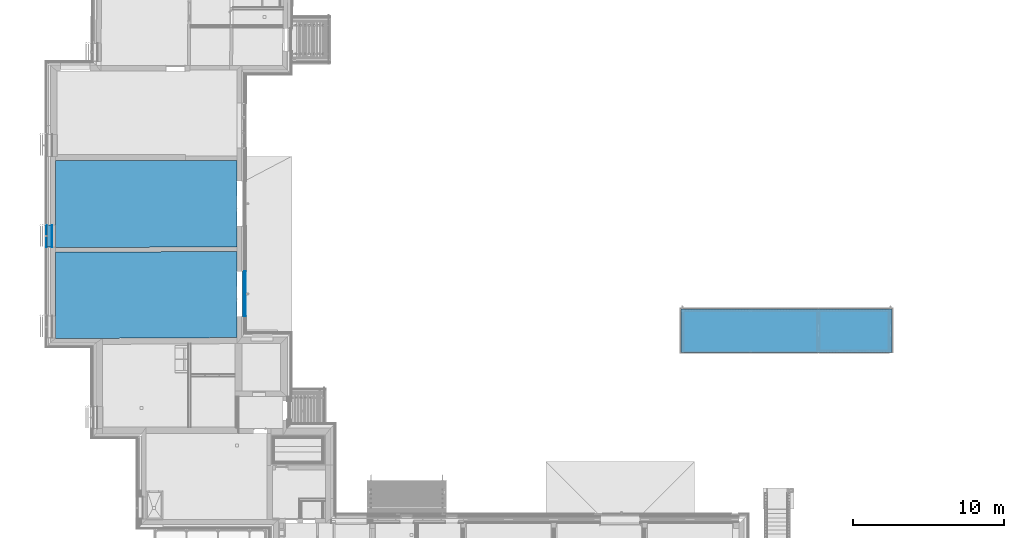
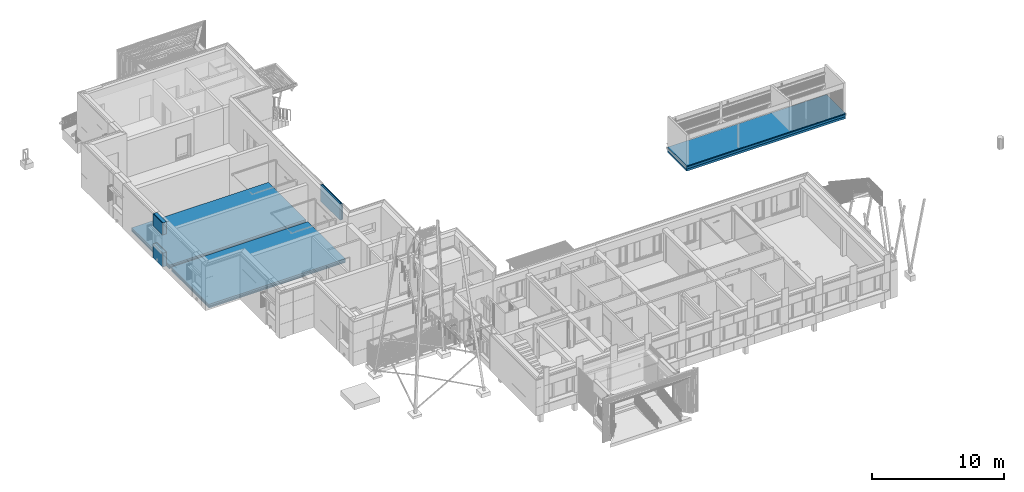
# One storey, part 50 of 418: 18 building element parts, 5 openings, 5 elements without a shape of their own.
"""IFC2X3 building model written with IfcOpenShell, lengths in millimetres."""

from ifc_helpers import new_model, entity, si_unit, converted_unit, derived_unit, money_unit, direction, frame, origin_with_axes, origin_2d_with_axis, place, context, subcontext, project, spatial, polyline, rectangle, outline, extrude, material, type_object, element, aggregate, save


model = new_model("IFC2X3")

# Units and contexts
model_context = context("Model", 3, precision=0.01, world=origin_with_axes(), true_north=direction((0.0, 1.0)))
body_context = subcontext(model_context, "Body", "Model", "MODEL_VIEW")
ifc_project = project(units=[si_unit("LENGTHUNIT", "METRE", prefix="MILLI"), si_unit("AREAUNIT", "SQUARE_METRE"), si_unit("VOLUMEUNIT", "CUBIC_METRE"), converted_unit("PLANEANGLEUNIT", "DEGREE", entity("IfcPlaneAngleMeasure", 0.0174532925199), si_unit("PLANEANGLEUNIT", "RADIAN"), dimensions=[0, 0, 0, 0, 0, 0, 0]), si_unit("SOLIDANGLEUNIT", "STERADIAN"), money_unit("EUR"), converted_unit("TIMEUNIT", "Year", entity("IfcTimeMeasure", 31556926.0), si_unit("TIMEUNIT", "SECOND"), dimensions=[0, 0, 1, 0, 0, 0, 0]), si_unit("MASSUNIT", "GRAM", prefix="KILO"), si_unit("THERMODYNAMICTEMPERATUREUNIT", "DEGREE_CELSIUS"), si_unit("LUMINOUSINTENSITYUNIT", "LUMEN"), si_unit("ENERGYUNIT", "JOULE", prefix="MEGA"), derived_unit("THERMALCONDUCTANCEUNIT", [(si_unit("POWERUNIT", "WATT"), 1), (si_unit("LENGTHUNIT", "METRE"), -1), (si_unit("THERMODYNAMICTEMPERATUREUNIT", "KELVIN"), -1)]), derived_unit("SPECIFICHEATCAPACITYUNIT", [(si_unit("ENERGYUNIT", "JOULE"), 1), (si_unit("MASSUNIT", "GRAM", prefix="KILO"), -1), (si_unit("THERMODYNAMICTEMPERATUREUNIT", "KELVIN"), -1)]), derived_unit("MASSDENSITYUNIT", [(si_unit("MASSUNIT", "GRAM", prefix="KILO"), 1), (si_unit("VOLUMEUNIT", "CUBIC_METRE"), -1)])], contexts=[model_context])

# Site, building, storey
site_placement = place(None, origin_with_axes())
site = spatial("IfcSite", under=ifc_project, at=site_placement, Name="Paldiski mnt 245/1, Tallinn, Harjumaa", CompositionType="COMPLEX")
building_placement = place(site_placement, origin_with_axes())
building = spatial("IfcBuilding", under=site, at=building_placement, Name="RKAS Hoone üldnimetus (kasutust iseloomustav) -> IFC Project Manager -> SOLIBRI", CompositionType="ELEMENT")
storey_placement = place(building_placement, origin_with_axes())
storey = spatial("IfcBuildingStorey", under=building, at=storey_placement, Name="Esimene korrus", CompositionType="ELEMENT", Elevation=0.0)

# Wall, openings, building element parts
wall_type_1 = type_object("IfcWallType", Name="VS-05D_uued_kihid 370", PredefinedType="NOTDEFINED")
wall_1_placement = place(storey_placement, frame((-62610.0, 19579.8288003, 0.0), z_axis=(0.0, 0.0, 1.0), x_axis=(0.0, -1.0, 0.0)))
wall_1 = element("IfcWall", 1, at=wall_1_placement, inside=storey, type_object=wall_type_1, Name="VS-05")
opening_1_placement = place(wall_1_placement, frame((725.0, 0.0, 1280.0), z_axis=(0.0, 0.0, 1.0), x_axis=(1.0, 0.0, 0.0)))
element("IfcOpeningElement", 2, at=opening_1_placement, cuts=wall_1, Name="A-06", context=body_context, shape_type="SweptSolid", body=[
    extrude(rectangle(XDim=1450.0, YDim=1700.0, at=origin_2d_with_axis()), frame((0.0, -220.0, 850.0), z_axis=(0.0, 1.0, 0.0), x_axis=(-1.0, 0.0, 0.0)), (0.0, 0.0, 1.0), 590.0),
    extrude(rectangle(XDim=1450.0, YDim=1700.0, at=origin_2d_with_axis()), frame((0.0, -220.0, 850.0), z_axis=(0.0, -1.0, 0.0), x_axis=(-1.0, 0.0, 0.0)), (0.0, 0.0, 1.0), 520.0),
    extrude(rectangle(XDim=1450.0, YDim=1700.0, at=origin_2d_with_axis()), frame((0.0, 0.0, 850.0), z_axis=(0.0, 1.0, 0.0), x_axis=(-1.0, 0.0, 0.0)), (0.0, 0.0, 1.0), 520.0),
    extrude(rectangle(XDim=1450.0, YDim=1708.0, at=origin_2d_with_axis()), frame((0.0, -370.0, 846.0), z_axis=(0.0, -1.0, 0.0), x_axis=(-1.0, 0.0, 0.0)), (0.0, 0.0, 1.0), 520.0),
])
opening_2_placement = place(wall_1_placement, frame((725.0, 0.0, 0.0), z_axis=(0.0, 0.0, 1.0), x_axis=(1.0, 0.0, 0.0)))
element("IfcOpeningElement", 3, at=opening_2_placement, cuts=wall_1, Name="Cembrit fassaadiplaadi vuuk", context=body_context, shape_type="SweptSolid", body=[
    extrude(outline(polyline([(-3.99999999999, 0.0), (4.00000000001, 0.0), (4.00000000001, 4090.0), (-3.99999999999, 4090.0), (-3.99999999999, 0.0)])), frame((0.0, -362.0, 0.0), z_axis=(0.0, 1.0, 0.0), x_axis=(-1.0, 0.0, 0.0)), (0.0, 0.0, -1.0), 378.0),
])
ifc_material_1 = material(Name="Cembrit_C060")
building_element_part_1_placement = place(wall_1_placement, origin_with_axes())
building_element_part_1 = element("IfcBuildingElementPart", 4, at=building_element_part_1_placement, material=ifc_material_1, Name="Cembrit_C060", context=body_context, shape_type="SweptSolid", body=[
    extrude(outline(polyline([(0.0, -370.0), (1450.0, -370.0), (1450.0, -362.0), (0.0, -362.0), (0.0, -370.0)])), origin_with_axes(), (0.0, 0.0, 1.0), 4090.0),
])
ifc_material_2 = material(Name="VKR-06_Õhkvahe")
building_element_part_2_placement = place(wall_1_placement, origin_with_axes())
building_element_part_2 = element("IfcBuildingElementPart", 5, at=building_element_part_2_placement, material=ifc_material_2, Name="VKR-06_Õhkvahe", context=body_context, shape_type="SweptSolid", body=[
    extrude(outline(polyline([(0.0, -362.0), (1450.0, -362.0), (1450.0, -320.0), (0.0, -320.0), (0.0, -362.0)])), origin_with_axes(), (0.0, 0.0, 1.0), 4090.0),
])
ifc_material_3 = material(Name="Kingspan Kooltherm")
building_element_part_3_placement = place(wall_1_placement, origin_with_axes())
building_element_part_3 = element("IfcBuildingElementPart", 6, at=building_element_part_3_placement, material=ifc_material_3, Name="Kingspan Kooltherm", context=body_context, shape_type="SweptSolid", body=[
    extrude(outline(polyline([(0.0, -320.0), (1450.0, -320.0), (1450.0, -20.0), (0.0, -20.0), (0.0, -320.0)])), origin_with_axes(), (0.0, 0.0, 1.0), 4090.0),
])
ifc_material_4 = material(Name="Tasanduskrohv")
building_element_part_4_placement = place(wall_1_placement, origin_with_axes())
building_element_part_4 = element("IfcBuildingElementPart", 7, at=building_element_part_4_placement, material=ifc_material_4, Name="Tasanduskrohv", context=body_context, shape_type="SweptSolid", body=[
    extrude(outline(polyline([(0.0, -20.0), (1450.0, -20.0), (1450.0, 0.0), (0.0, 0.0), (0.0, -20.0)])), origin_with_axes(), (0.0, 0.0, 1.0), 4090.0),
])
aggregate(wall_1, [building_element_part_1, building_element_part_2, building_element_part_3, building_element_part_4])

# Slab, building element parts
slab_type_1 = type_object("IfcSlabType", Name="AP-01 350", PredefinedType="NOTDEFINED")
slab_1_placement = place(storey_placement, frame((-62390.0, 18096.4054606, 0.0), z_axis=(0.0, 0.0, 1.0), x_axis=(1.0, 0.0, 0.0)))
slab_1 = element("IfcSlab", 8, at=slab_1_placement, inside=storey, type_object=slab_type_1, Name="AP-01", PredefinedType="NOTDEFINED")
ifc_material_5 = material(Name="EPS 200")
building_element_part_5_placement = place(slab_1_placement, origin_with_axes())
building_element_part_5 = element("IfcBuildingElementPart", 9, at=building_element_part_5_placement, material=ifc_material_5, Name="EPS 200", context=body_context, shape_type="SweptSolid", body=[
    extrude(outline(polyline([(0.0, 0.0), (11999.9999501, 43.4232029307), (12000.0, 5743.42326376), (1.42108547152e-10, 5743.42326376), (0.0, 0.0)])), frame((0.0, 0.0, -350.0), z_axis=(0.0, 0.0, 1.0), x_axis=(1.0, 0.0, 0.0)), (0.0, 0.0, 1.0), 100.0),
])
building_element_part_6_placement = place(slab_1_placement, origin_with_axes())
building_element_part_6 = element("IfcBuildingElementPart", 10, at=building_element_part_6_placement, material=ifc_material_5, Name="EPS 200", context=body_context, shape_type="SweptSolid", body=[
    extrude(outline(polyline([(0.0, 0.0), (11999.9999501, 43.4232029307), (12000.0, 5743.42326376), (1.42108547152e-10, 5743.42326376), (0.0, 0.0)])), frame((0.0, 0.0, -250.0), z_axis=(0.0, 0.0, 1.0), x_axis=(1.0, 0.0, 0.0)), (0.0, 0.0, 1.0), 100.0),
])
ifc_material_6 = material(Name="Kiudbetoon")
building_element_part_7_placement = place(slab_1_placement, origin_with_axes())
building_element_part_7 = element("IfcBuildingElementPart", 11, at=building_element_part_7_placement, material=ifc_material_6, Name="Kiudbetoon", context=body_context, shape_type="SweptSolid", body=[
    extrude(outline(polyline([(0.0, 0.0), (11999.9999501, 43.4232029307), (12000.0, 5743.42326376), (1.42108547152e-10, 5743.42326376), (0.0, 0.0)])), frame((0.0, 0.0, -150.0), z_axis=(0.0, 0.0, 1.0), x_axis=(1.0, 0.0, 0.0)), (0.0, 0.0, 1.0), 150.0),
])
aggregate(slab_1, [building_element_part_5, building_element_part_6, building_element_part_7])

slab_2_placement = place(storey_placement, frame((-62390.0, 12099.8287244, 0.0), z_axis=(0.0, 0.0, 1.0), x_axis=(1.0, 0.0, 0.0)))
slab_2 = element("IfcSlab", 12, at=slab_2_placement, inside=storey, type_object=slab_type_1, Name="AP-01", PredefinedType="NOTDEFINED")
building_element_part_8_placement = place(slab_2_placement, origin_with_axes())
building_element_part_8 = element("IfcBuildingElementPart", 13, at=building_element_part_8_placement, material=ifc_material_5, Name="EPS 200", context=body_context, shape_type="SweptSolid", body=[
    extrude(outline(polyline([(0.0, 0.0), (3000.0, 0.0), (12000.0, 49.9999999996), (11999.9999792, 5739.9980529), (1.27897692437e-10, 5696.5747721), (0.0, 0.0)])), frame((0.0, 0.0, -350.0), z_axis=(0.0, 0.0, 1.0), x_axis=(1.0, 0.0, 0.0)), (0.0, 0.0, 1.0), 100.0),
])
building_element_part_9_placement = place(slab_2_placement, origin_with_axes())
building_element_part_9 = element("IfcBuildingElementPart", 14, at=building_element_part_9_placement, material=ifc_material_5, Name="EPS 200", context=body_context, shape_type="SweptSolid", body=[
    extrude(outline(polyline([(0.0, 0.0), (3000.0, 0.0), (12000.0, 49.9999999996), (11999.9999792, 5739.9980529), (1.27897692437e-10, 5696.5747721), (0.0, 0.0)])), frame((0.0, 0.0, -250.0), z_axis=(0.0, 0.0, 1.0), x_axis=(1.0, 0.0, 0.0)), (0.0, 0.0, 1.0), 100.0),
])
building_element_part_10_placement = place(slab_2_placement, origin_with_axes())
building_element_part_10 = element("IfcBuildingElementPart", 15, at=building_element_part_10_placement, material=ifc_material_6, Name="Kiudbetoon", context=body_context, shape_type="SweptSolid", body=[
    extrude(outline(polyline([(0.0, 0.0), (3000.0, 0.0), (12000.0, 49.9999999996), (11999.9999792, 5739.9980529), (1.27897692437e-10, 5696.5747721), (0.0, 0.0)])), frame((0.0, 0.0, -150.0), z_axis=(0.0, 0.0, 1.0), x_axis=(1.0, 0.0, 0.0)), (0.0, 0.0, 1.0), 150.0),
])
aggregate(slab_2, [building_element_part_8, building_element_part_9, building_element_part_10])

slab_type_2 = type_object("IfcSlabType", Name="AP-04_prugimaja_betoonkivi 490", PredefinedType="NOTDEFINED")
slab_3_placement = place(storey_placement, frame((-21069.2717928, 11149.7949563, -1060.0), z_axis=(0.0, 0.0, 1.0), x_axis=(1.0, 0.0, 0.0)))
slab_3 = element("IfcSlab", 16, at=slab_3_placement, inside=storey, type_object=slab_type_2, Name="Alusporand", PredefinedType="NOTDEFINED")
ifc_material_7 = material(Name="VKK-02_Liiv")
building_element_part_11_placement = place(slab_3_placement, origin_with_axes())
building_element_part_11 = element("IfcBuildingElementPart", 17, at=building_element_part_11_placement, material=ifc_material_7, Name="VKK-02_Liiv", context=body_context, shape_type="SweptSolid", body=[
    extrude(outline(polyline([(0.0, 0.0), (13939.9999915, -3.10862446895e-10), (13939.9999915, 2890.00000143), (0.0, 2890.00000143), (0.0, 0.0)])), frame((0.0, 0.0, -490.0), z_axis=(0.0, 0.0, 1.0), x_axis=(1.0, 0.0, 0.0)), (0.0, 0.0, 1.0), 200.0),
])
ifc_material_8 = material(Name="VKK-03_Killustik")
building_element_part_12_placement = place(slab_3_placement, origin_with_axes())
building_element_part_12 = element("IfcBuildingElementPart", 18, at=building_element_part_12_placement, material=ifc_material_8, Name="VKK-03_Killustik", context=body_context, shape_type="SweptSolid", body=[
    extrude(outline(polyline([(0.0, 0.0), (13939.9999915, -3.10862446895e-10), (13939.9999915, 2890.00000143), (0.0, 2890.00000143), (0.0, 0.0)])), frame((0.0, 0.0, -290.0), z_axis=(0.0, 0.0, 1.0), x_axis=(1.0, 0.0, 0.0)), (0.0, 0.0, 1.0), 200.0),
])
building_element_part_13_placement = place(slab_3_placement, origin_with_axes())
building_element_part_13 = element("IfcBuildingElementPart", 19, at=building_element_part_13_placement, material=ifc_material_7, Name="VKK-02_Liiv", context=body_context, shape_type="SweptSolid", body=[
    extrude(outline(polyline([(0.0, 0.0), (13939.9999915, -3.10862446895e-10), (13939.9999915, 2890.00000143), (0.0, 2890.00000143), (0.0, 0.0)])), frame((0.0, 0.0, -90.0), z_axis=(0.0, 0.0, 1.0), x_axis=(1.0, 0.0, 0.0)), (0.0, 0.0, 1.0), 30.0),
])
ifc_material_9 = material(Name="VKR-03_Betoon Plokk - Krunt")
building_element_part_14_placement = place(slab_3_placement, origin_with_axes())
building_element_part_14 = element("IfcBuildingElementPart", 20, at=building_element_part_14_placement, material=ifc_material_9, Name="VKR-03_Betoon Plokk - Krunt", context=body_context, shape_type="SweptSolid", body=[
    extrude(outline(polyline([(0.0, 0.0), (13939.9999915, -3.10862446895e-10), (13939.9999915, 2890.00000143), (0.0, 2890.00000143), (0.0, 0.0)])), frame((0.0, 0.0, -60.0), z_axis=(0.0, 0.0, 1.0), x_axis=(1.0, 0.0, 0.0)), (0.0, 0.0, 1.0), 60.0),
])
aggregate(slab_3, [building_element_part_11, building_element_part_12, building_element_part_13, building_element_part_14])

# Wall, openings, building element parts
wall_type_2 = type_object("IfcWallType", Name="VS-03.1_uued_kihid 250", PredefinedType="NOTDEFINED")
wall_2_placement = place(storey_placement, frame((-50070.0, 16529.8267602, 2600.0), z_axis=(0.0, 0.0, 1.0), x_axis=(0.0, -1.0, 0.0)))
wall_2 = element("IfcWall", 21, at=wall_2_placement, inside=storey, type_object=wall_type_2, Name="VS-03.1")
opening_3_placement = place(wall_2_placement, frame((994.000187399, 0.0, -40.0), z_axis=(0.0, 0.0, 1.0), x_axis=(1.0, 0.0, 0.0)))
element("IfcOpeningElement", 22, at=opening_3_placement, cuts=wall_2, Name="Cembrit fassaadiplaadi vuuk", context=body_context, shape_type="SweptSolid", body=[
    extrude(outline(polyline([(-4.0, 0.0), (4.0, 0.0), (4.0, 1530.0), (-4.0, 1530.0), (-4.0, 0.0)])), frame((0.0, 242.0, 0.0), z_axis=(0.0, -1.0, 0.0), x_axis=(1.0, 0.0, 0.0)), (0.0, 0.0, -1.0), 258.0),
])
opening_4_placement = place(wall_2_placement, frame((1994.0001874, 0.0, -40.0), z_axis=(0.0, 0.0, 1.0), x_axis=(1.0, 0.0, 0.0)))
element("IfcOpeningElement", 23, at=opening_4_placement, cuts=wall_2, Name="Cembrit fassaadiplaadi vuuk", context=body_context, shape_type="SweptSolid", body=[
    extrude(outline(polyline([(-4.0, 0.0), (4.0, 0.0), (4.0, 1530.0), (-4.0, 1530.0), (-4.0, 0.0)])), frame((0.0, 242.0, 0.0), z_axis=(0.0, -1.0, 0.0), x_axis=(1.0, 0.0, 0.0)), (0.0, 0.0, -1.0), 258.0),
])
opening_5_placement = place(wall_2_placement, frame((1490.00014203, 0.0, 390.0), z_axis=(0.0, 0.0, 1.0), x_axis=(1.0, 0.0, 0.0)))
element("IfcOpeningElement", 24, at=opening_5_placement, cuts=wall_2, Name="Cembrit fassaadiplaadi vuuk", context=body_context, shape_type="SweptSolid", body=[
    extrude(outline(polyline([(-1490.0, 0.0), (1490.0, 0.0), (1490.0, 8.0), (-1490.0, 8.0), (-1490.0, 0.0)])), frame((0.0, 242.0, 0.0), z_axis=(0.0, -1.0, 0.0), x_axis=(1.0, 0.0, 0.0)), (0.0, 0.0, -1.0), 258.0),
])
building_element_part_15_placement = place(wall_2_placement, origin_with_axes())
building_element_part_15 = element("IfcBuildingElementPart", 25, at=building_element_part_15_placement, material=ifc_material_1, Name="Cembrit_C060", context=body_context, shape_type="SweptSolid", body=[
    extrude(outline(polyline([(0.0, 242.0), (2980.0, 242.0), (2980.0, 250.0), (0.0, 250.0), (0.0, 242.0)])), origin_with_axes(), (0.0, 0.0, 1.0), 1490.0),
])
building_element_part_16_placement = place(wall_2_placement, origin_with_axes())
building_element_part_16 = element("IfcBuildingElementPart", 26, at=building_element_part_16_placement, material=ifc_material_2, Name="VKR-06_Õhkvahe", context=body_context, shape_type="SweptSolid", body=[
    extrude(outline(polyline([(0.0, 200.0), (2980.0, 200.0), (2980.0, 242.0), (0.0, 242.0), (0.0, 200.0)])), origin_with_axes(), (0.0, 0.0, 1.0), 1490.0),
])
building_element_part_17_placement = place(wall_2_placement, origin_with_axes())
building_element_part_17 = element("IfcBuildingElementPart", 27, at=building_element_part_17_placement, material=ifc_material_3, Name="Kingspan Kooltherm", context=body_context, shape_type="SweptSolid", body=[
    extrude(outline(polyline([(0.0, 150.0), (2980.0, 150.0), (2980.0, 200.0), (0.0, 200.0), (0.0, 150.0)])), origin_with_axes(), (0.0, 0.0, 1.0), 1490.0),
])
building_element_part_18_placement = place(wall_2_placement, origin_with_axes())
building_element_part_18 = element("IfcBuildingElementPart", 28, at=building_element_part_18_placement, material=ifc_material_3, Name="Kingspan Kooltherm", context=body_context, shape_type="SweptSolid", body=[
    extrude(outline(polyline([(0.0, 0.0), (2980.0, 0.0), (2980.0, 150.0), (0.0, 150.0), (0.0, 0.0)])), origin_with_axes(), (0.0, 0.0, 1.0), 1490.0),
])
aggregate(wall_2, [building_element_part_15, building_element_part_16, building_element_part_17, building_element_part_18])

save(model, "model.ifc")
